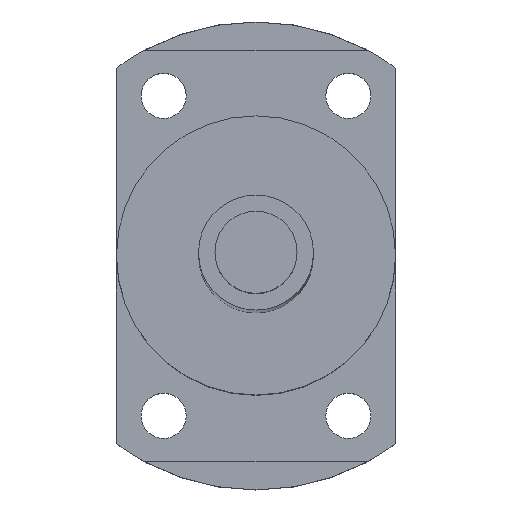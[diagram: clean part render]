
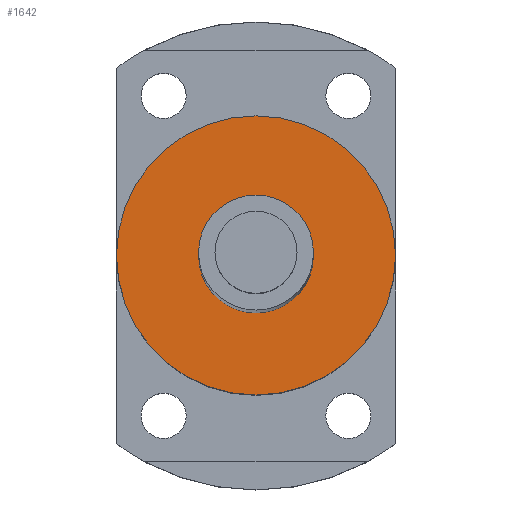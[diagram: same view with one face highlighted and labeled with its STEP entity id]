
A CAD part, top view. The second image highlights one B-rep face of the part: STEP entity #1642.
In plain terms, the highlighted planar face has unit normal (0, 0, 1).
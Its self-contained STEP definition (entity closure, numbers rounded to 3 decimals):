
#507=CARTESIAN_POINT('',(0.,0.,299.5));
#508=DIRECTION('',(0.,0.,1.));
#509=DIRECTION('',(1.,0.,0.));
#510=AXIS2_PLACEMENT_3D('',#507,#508,#509);
#512=CARTESIAN_POINT('',(0.,0.,299.5));
#513=DIRECTION('',(0.,0.,1.));
#514=DIRECTION('',(-1.,0.,0.));
#515=AXIS2_PLACEMENT_3D('',#512,#513,#514);
#517=CARTESIAN_POINT('',(0.,0.,299.5));
#518=DIRECTION('',(0.,0.,1.));
#519=DIRECTION('',(1.,0.,0.));
#520=AXIS2_PLACEMENT_3D('',#517,#518,#519);
#522=CARTESIAN_POINT('',(0.,0.,299.5));
#523=DIRECTION('',(0.,0.,1.));
#524=DIRECTION('',(-1.,0.,0.));
#525=AXIS2_PLACEMENT_3D('',#522,#523,#524);
#749=CARTESIAN_POINT('',(17.,0.,299.5));
#750=CARTESIAN_POINT('',(-17.,0.,299.5));
#751=VERTEX_POINT('',#749);
#752=VERTEX_POINT('',#750);
#761=CARTESIAN_POINT('',(7.,0.,299.5));
#762=CARTESIAN_POINT('',(-7.,0.,299.5));
#763=VERTEX_POINT('',#761);
#764=VERTEX_POINT('',#762);
#1627=CARTESIAN_POINT('',(0.,0.,299.5));
#1628=DIRECTION('',(0.,0.,1.));
#1629=DIRECTION('',(1.,0.,0.));
#1630=AXIS2_PLACEMENT_3D('',#1627,#1628,#1629);
#1631=PLANE('',#1630);
#1632=ORIENTED_EDGE('',*,*,#1607,.F.);
#1633=ORIENTED_EDGE('',*,*,#1621,.F.);
#1634=EDGE_LOOP('',(#1632,#1633));
#1635=FACE_OUTER_BOUND('',#1634,.F.);
#1637=ORIENTED_EDGE('',*,*,#1636,.T.);
#1639=ORIENTED_EDGE('',*,*,#1638,.T.);
#1640=EDGE_LOOP('',(#1637,#1639));
#1641=FACE_BOUND('',#1640,.F.);
#1642=ADVANCED_FACE('',(#1635,#1641),#1631,.T.);
#511=CIRCLE('',#510,17.);
#516=CIRCLE('',#515,17.);
#521=CIRCLE('',#520,7.);
#526=CIRCLE('',#525,7.);
#1607=EDGE_CURVE('',#751,#752,#511,.T.);
#1621=EDGE_CURVE('',#752,#751,#516,.T.);
#1636=EDGE_CURVE('',#763,#764,#521,.T.);
#1638=EDGE_CURVE('',#764,#763,#526,.T.);
